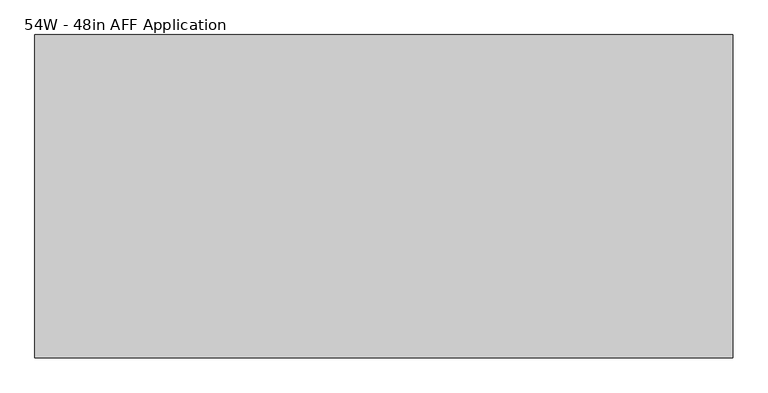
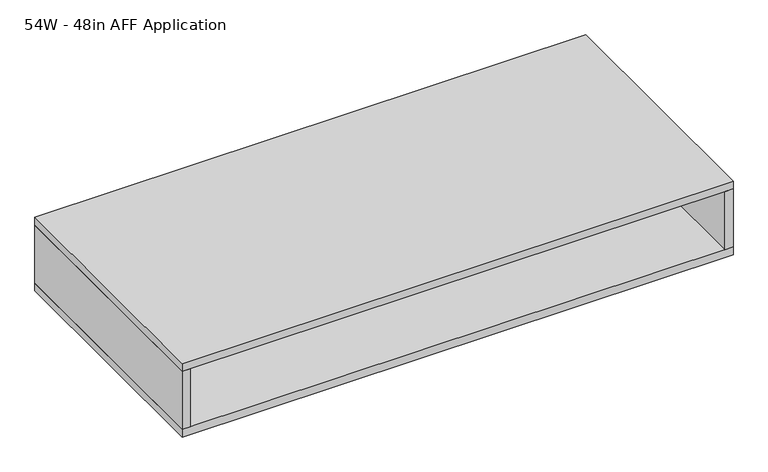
"""IFC4 building model written with IfcOpenShell, lengths in millimetres: furniture geometry, Steelcase - Duo Storage - For Use with Top Cap Mounted Storage - Slim : 54W - 48in AFF Application."""

from ifc_helpers import new_model, si_unit, frame, origin, place, context, project, spatial, polyline, outline, extrude, source, transform, mapped, element, save


def furniture_54w_48in_aff_application_f83b6835(model_context):
    return source(origin(), model_context, "Body", "SweptSolid", [
        extrude(outline(polyline([(1351.2799516, 317.4999523), (1371.6, 317.4999523), (1371.6, -317.5000477), (1351.2799516, -317.5000477), (1351.2799516, 317.4999523)])), frame((0.0, 0.0, 1242.0599793), z_axis=(0.0, 0.0, 1.0), x_axis=(1.0, 0.0, 0.0)), (0.0, 0.0, 1.0), 152.6539882),
        extrude(outline(polyline([(1371.6, 317.4999523), (1371.6, -317.5000477), (0.0, -317.5000477), (0.0, 317.4999523), (1371.6, 317.4999523)])), frame((0.0, 0.0, 1394.7139674), z_axis=(0.0, 0.0, 1.0), x_axis=(1.0, 0.0, 0.0)), (0.0, 0.0, 1.0), 20.3200326),
        extrude(outline(polyline([(1351.2799516, 11.303), (1351.2799516, -11.303), (20.3199129, -11.303), (20.3199129, 11.303), (1351.2799516, 11.303)])), frame((0.0, 0.0, 1242.0599793), z_axis=(0.0, 0.0, 1.0), x_axis=(1.0, 0.0, 0.0)), (0.0, 0.0, 1.0), 152.6539882),
        extrude(outline(polyline([(20.3199129, 317.4999523), (20.3199129, -317.5000477), (0.0, -317.5000477), (0.0, 317.4999523), (20.3199129, 317.4999523)])), frame((0.0, 0.0, 1242.0599793), z_axis=(0.0, 0.0, 1.0), x_axis=(1.0, 0.0, 0.0)), (0.0, 0.0, 1.0), 152.6539882),
        extrude(outline(polyline([(1371.6, 317.4999523), (1371.6, -317.5000477), (0.0, -317.5000477), (0.0, 317.4999523), (1371.6, 317.4999523)])), frame((0.0, 0.0, 1221.74), z_axis=(0.0, 0.0, 1.0), x_axis=(1.0, 0.0, 0.0)), (0.0, 0.0, 1.0), 20.3199793),
    ])


if __name__ == "__main__":
    model = new_model("IFC4")
    model_context = context("Model", 3, world=origin())
    ifc_project = project(units=[si_unit("LENGTHUNIT", "METRE", prefix="MILLI")], contexts=[model_context])
    site = spatial("IfcSite", under=ifc_project)
    building = spatial("IfcBuilding", under=site)
    placement = place(None, origin())
    furniture_54w_48in_aff_application_shape = furniture_54w_48in_aff_application_f83b6835(model_context)
    element("IfcFurniture", 1, ObjectType="Steelcase - Duo Storage - For Use with Top Cap Mounted Storage - Slim : 54W - 48in AFF Application", at=placement, inside=building, context=model_context, shape_type="MappedRepresentation", body=[
        mapped(furniture_54w_48in_aff_application_shape, transform((0.0, 0.0, 0.0), x_axis=(1.0, 0.0, 0.0), y_axis=(0.0, 1.0, 0.0), z_axis=(0.0, 0.0, 1.0))),
    ])
    save(model, "model.ifc")
